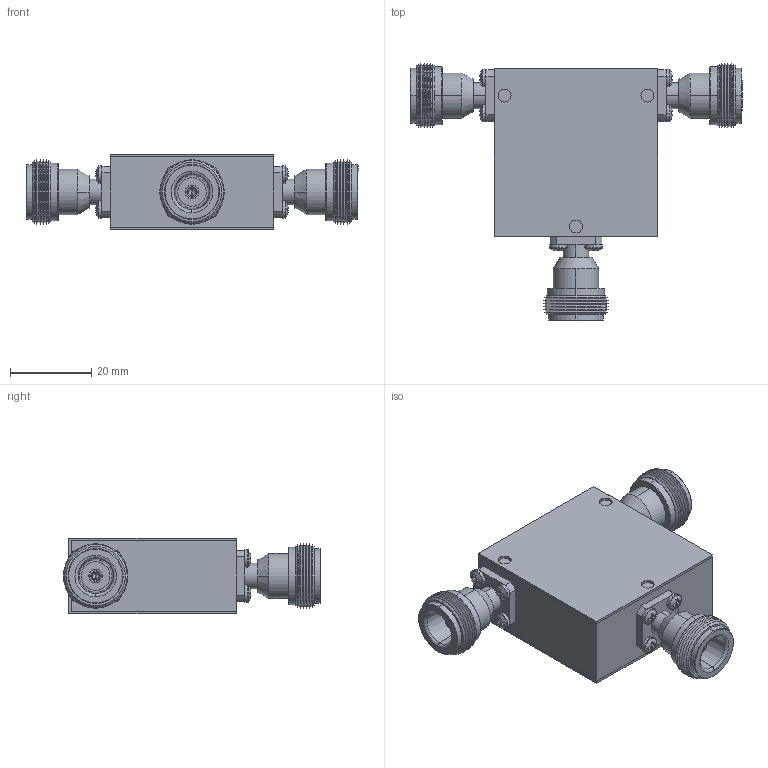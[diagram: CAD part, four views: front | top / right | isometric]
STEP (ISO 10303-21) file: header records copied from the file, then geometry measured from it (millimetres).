
FILE_DESCRIPTION (( 'STEP AP214' ), '1' );
FILE_NAME ('Package 7 Circ FFF Type-N.step', '2021-12-01T21:01:35', ( '' ), ( '' ), 'SwSTEP 2.0', 'SolidWorks 2016', '' );
FILE_SCHEMA (( 'AUTOMOTIVE_DESIGN' ));
Length unit declared in the file: inch
Products named in the file (5): Package 7; pan cross head_ai_CR-PHMS 0.086-56x0.125x0.125-N; Package 7 Circ FFF Type-N; Type-N Female 0.500 flange; Package Size 7
Assembly tree (17 placements, depth 2):
  Package 7 Circ FFF Type-N
    Package Size 7
    Package 7
    Type-N Female 0.500 flange  x3
    pan cross head_ai_CR-PHMS 0.086-56x0.125x0.125-N  x12
Bounding box: 81.48 x 63.14 x 18.54 mm (x, y, z)
Volume: 36315.5 mm3; surface area: 20766.4 mm2
Topology: 17 solids, 17 shells, 676 faces, 1539 edges, 939 vertices
Faces by surface type: plane 307, cylinder 183, cone 132, torus 24, sphere 24, bspline 6
Entity records: 5451 total; most frequent: DIRECTION 979, CARTESIAN_POINT 967, ORIENTED_EDGE 818, EDGE_CURVE 409, AXIS2_PLACEMENT_3D 395, VERTEX_POINT 255, EDGE_LOOP 208, CIRCLE 202
